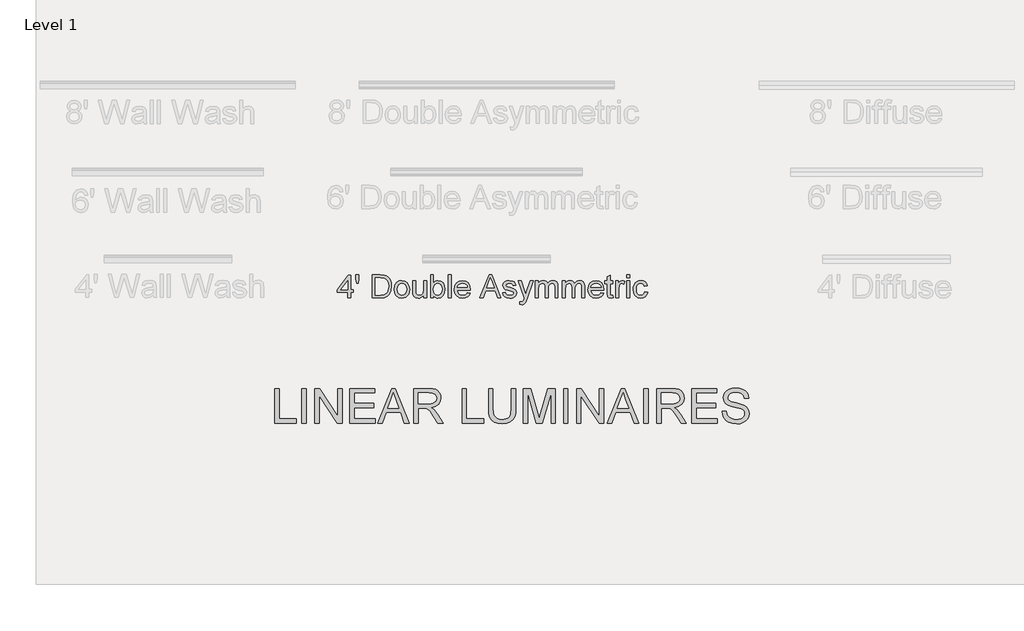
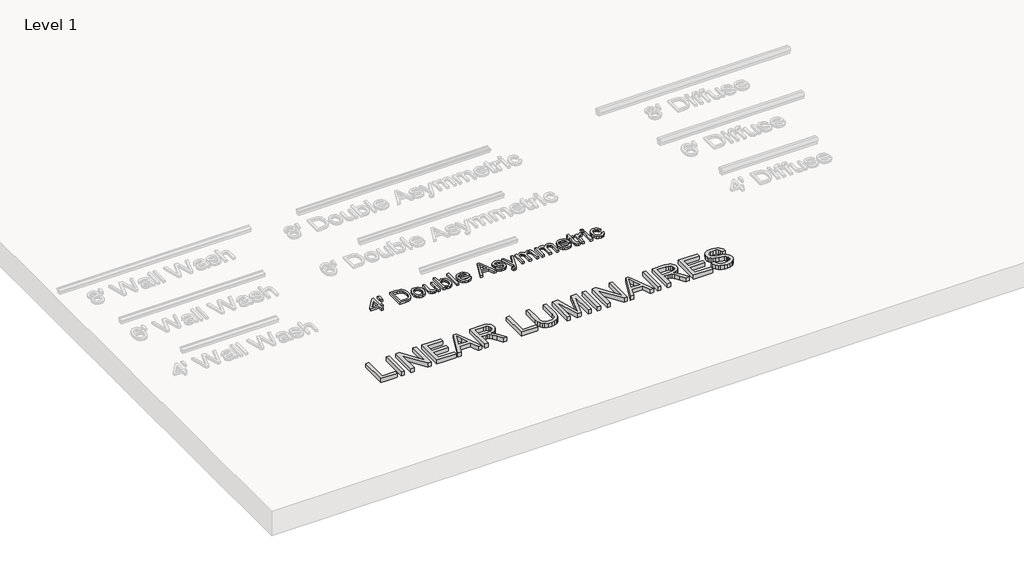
# One storey, part 2 of 9: 2 proxies.
"""IFC4 building model written with IfcOpenShell, lengths in millimetres."""

from ifc_helpers import new_model, si_unit, origin, origin_with_axes, place, context, project, spatial, polyline, outline, extrude, element, save

model = new_model("IFC4")

# Units and contexts
model_context = context("Model", 3, world=origin())
ifc_project = project(units=[si_unit("LENGTHUNIT", "METRE", prefix="MILLI")], contexts=[model_context])

# Site, building, storey
site = spatial("IfcSite", under=ifc_project)
building = spatial("IfcBuilding", under=site)
storey = spatial("IfcBuildingStorey", under=building, Name="Level 1", Elevation=0.0)

# Proxies
placement = place(None, origin())
element("IfcBuildingElementProxy", 1, Name="24\" Arial", ObjectType="24\" Arial", at=placement, inside=storey, context=model_context, shape_type="SweptSolid", body=[
    extrude(outline(polyline([(-9601.643189, 4815.649732), (-9601.643189, 5120.2168261), (-9563.5723022, 5120.2168261), (-9563.5723022, 4853.7206188), (-9411.2887552, 4853.7206188), (-9411.2887552, 4815.649732), (-9601.643189, 4815.649732)])), origin_with_axes(), (0.0, 0.0, 1.0), 50.8),
    extrude(outline(polyline([(-9363.7001467, 4815.649732), (-9363.7001467, 5120.2168261), (-9325.62926, 5120.2168261), (-9325.62926, 4815.649732), (-9363.7001467, 4815.649732)])), origin_with_axes(), (0.0, 0.0, 1.0), 50.8),
    extrude(outline(polyline([(-9249.4874865, 4815.649732), (-9249.4874865, 5120.2168261), (-9208.7397405, 5120.2168261), (-9049.615331, 4878.9277098), (-9049.615331, 5120.2168261), (-9011.5444442, 5120.2168261), (-9011.5444442, 4815.649732), (-9052.2921902, 4815.649732), (-9211.4165997, 5057.0132055), (-9211.4165997, 4815.649732), (-9249.4874865, 4815.649732)])), origin_with_axes(), (0.0, 0.0, 1.0), 50.8),
    extrude(outline(polyline([(-8944.9203924, 4815.649732), (-8944.9203924, 5120.2168261), (-8726.0127935, 5120.2168261), (-8726.0127935, 5082.1459393), (-8906.8495056, 5082.1459393), (-8906.8495056, 4991.7275833), (-8735.5305152, 4991.7275833), (-8735.5305152, 4953.6566965), (-8906.8495056, 4953.6566965), (-8906.8495056, 4853.7206188), (-8721.2539327, 4853.7206188), (-8721.2539327, 4815.649732), (-8944.9203924, 4815.649732)])), origin_with_axes(), (0.0, 0.0, 1.0), 50.8),
    extrude(outline(polyline([(-8699.6159873, 4815.649732), (-8578.0419642, 5120.2168261), (-8545.6222246, 5120.2168261), (-8424.0482015, 4815.649732), (-8464.2754471, 4815.649732), (-8499.1489742, 4910.8269489), (-8624.5895718, 4910.8269489), (-8659.3887417, 4815.649732), (-8699.6159873, 4815.649732)]), holes=[polyline([(-8610.6104181, 4948.8978357), (-8513.0537707, 4948.8978357), (-8540.4915778, 5023.7755368), (-8561.8320944, 5082.1459393), (-8580.7931806, 5030.3189704), (-8610.6104181, 4948.8978357)])]), origin_with_axes(), (0.0, 0.0, 1.0), 50.8),
    extrude(outline(polyline([(-8383.3748127, 4815.649732), (-8383.3748127, 5120.2168261), (-8252.1343535, 5120.2168261), (-8216.8611564, 5118.1627084), (-8191.1986275, 5112.0003554), (-8172.4420236, 5100.6237037), (-8157.8866016, 5082.9266899), (-8148.5454783, 5060.9820211), (-8145.4317705, 5036.8624041), (-8150.5903013, 5006.8592736), (-8166.0658937, 4981.98679), (-8177.7887711, 4971.850974), (-8192.3232802, 4963.7506865), (-8229.8271933, 4953.6566965), (-8208.1892479, 4937.3724695), (-8177.3310096, 4898.1862248), (-8126.5450415, 4815.649732), (-8170.7875759, 4815.649732), (-8210.4199639, 4878.7789954), (-8239.0474862, 4920.5677422), (-8259.1611089, 4940.309579), (-8277.2670873, 4947.559406), (-8299.3511759, 4948.8978357), (-8345.303926, 4948.8978357), (-8345.303926, 4815.649732), (-8383.3748127, 4815.649732)]), holes=[polyline([(-8345.303926, 4986.9687224), (-8260.090574, 4986.9687224), (-8235.6177603, 4988.3164467), (-8216.6287901, 4992.3596195), (-8202.3336183, 4999.3677856), (-8191.9421995, 5009.61049), (-8185.6125428, 5022.0002586), (-8183.5026572, 5035.4496173), (-8187.5272407, 5054.0203281), (-8199.6009912, 5068.9847148), (-8220.3745341, 5078.8556332), (-8250.4984951, 5082.1459393), (-8345.303926, 5082.1459393), (-8345.303926, 4986.9687224)])]), origin_with_axes(), (0.0, 0.0, 1.0), 50.8),
    extrude(outline(polyline([(-7959.8361975, 4815.649732), (-7959.8361975, 5120.2168261), (-7921.7653108, 5120.2168261), (-7921.7653108, 4853.7206188), (-7769.4817637, 4853.7206188), (-7769.4817637, 4815.649732), (-7959.8361975, 4815.649732)])), origin_with_axes(), (0.0, 0.0, 1.0), 50.8),
    extrude(outline(polyline([(-7526.7798607, 5120.2168261), (-7488.7089739, 5120.2168261), (-7488.7089739, 4944.5107608), (-7491.2928866, 4903.3633449), (-7499.0446248, 4871.6778827), (-7513.5256896, 4847.232953), (-7536.2975823, 4827.8071343), (-7567.4160708, 4815.1199369), (-7606.936923, 4810.8908712), (-7645.5933727, 4814.5715526), (-7676.4980843, 4825.6135969), (-7699.6603523, 4843.6359234), (-7715.0894714, 4868.2574515), (-7723.76138, 4901.2813433), (-7726.6520161, 4944.5107608), (-7726.6520161, 5120.2168261), (-7688.5811294, 5120.2168261), (-7688.5811294, 4945.8491904), (-7686.7036101, 4911.6355835), (-7681.0710521, 4887.8133953), (-7670.8655263, 4871.3153914), (-7655.2691035, 4859.0743372), (-7634.9324091, 4851.4899027), (-7610.5060686, 4848.9617579), (-7571.7845564, 4853.9622797), (-7557.2895496, 4860.2129318), (-7546.0383756, 4868.9638449), (-7537.6127753, 4881.2699616), (-7531.5944894, 4898.1862248), (-7526.7798607, 4945.8491904), (-7526.7798607, 5120.2168261)])), origin_with_axes(), (0.0, 0.0, 1.0), 50.8),
    extrude(outline(polyline([(-7422.0849221, 4815.649732), (-7422.0849221, 5120.2168261), (-7356.5762282, 5120.2168261), (-7294.2648941, 4905.5475876), (-7281.6985271, 4860.7101956), (-7268.0911594, 4909.2654477), (-7206.820826, 5120.2168261), (-7141.3121322, 5120.2168261), (-7141.3121322, 4815.649732), (-7179.383019, 4815.649732), (-7179.383019, 5082.1459393), (-7255.8965785, 4815.649732), (-7307.5004758, 4815.649732), (-7384.0140353, 5082.1459393), (-7384.0140353, 4815.649732), (-7422.0849221, 4815.649732)])), origin_with_axes(), (0.0, 0.0, 1.0), 50.8),
    extrude(outline(polyline([(-7069.9292195, 4815.649732), (-7069.9292195, 5120.2168261), (-7031.8583328, 5120.2168261), (-7031.8583328, 4815.649732), (-7069.9292195, 4815.649732)])), origin_with_axes(), (0.0, 0.0, 1.0), 50.8),
    extrude(outline(polyline([(-6955.7165593, 4815.649732), (-6955.7165593, 5120.2168261), (-6914.9688133, 5120.2168261), (-6755.8444038, 4878.9277098), (-6755.8444038, 5120.2168261), (-6717.773517, 5120.2168261), (-6717.773517, 4815.649732), (-6758.521263, 4815.649732), (-6917.6456725, 5057.0132055), (-6917.6456725, 4815.649732), (-6955.7165593, 4815.649732)])), origin_with_axes(), (0.0, 0.0, 1.0), 50.8),
    extrude(outline(polyline([(-6686.6178499, 4815.649732), (-6565.0438268, 5120.2168261), (-6532.6240873, 5120.2168261), (-6411.0500641, 4815.649732), (-6451.2773097, 4815.649732), (-6486.1508368, 4910.8269489), (-6611.5914344, 4910.8269489), (-6646.3906044, 4815.649732), (-6686.6178499, 4815.649732)]), holes=[polyline([(-6597.6122807, 4948.8978357), (-6500.0556334, 4948.8978357), (-6527.4934404, 5023.7755368), (-6548.833957, 5082.1459393), (-6567.7950432, 5030.3189704), (-6597.6122807, 4948.8978357)])]), origin_with_axes(), (0.0, 0.0, 1.0), 50.8),
    extrude(outline(polyline([(-6365.6178145, 4815.649732), (-6365.6178145, 5120.2168261), (-6327.5469278, 5120.2168261), (-6327.5469278, 4815.649732), (-6365.6178145, 4815.649732)])), origin_with_axes(), (0.0, 0.0, 1.0), 50.8),
    extrude(outline(polyline([(-6251.4051542, 4815.649732), (-6251.4051542, 5120.2168261), (-6120.164695, 5120.2168261), (-6084.8914979, 5118.1627084), (-6059.228969, 5112.0003554), (-6040.4723652, 5100.6237037), (-6025.9169431, 5082.9266899), (-6016.5758198, 5060.9820211), (-6013.462112, 5036.8624041), (-6018.6206428, 5006.8592736), (-6034.0962352, 4981.98679), (-6045.8191126, 4971.850974), (-6060.3536217, 4963.7506865), (-6097.8575348, 4953.6566965), (-6076.2195894, 4937.3724695), (-6045.3613511, 4898.1862248), (-5994.575383, 4815.649732), (-6038.8179174, 4815.649732), (-6078.4503054, 4878.7789954), (-6107.0778277, 4920.5677422), (-6127.1914505, 4940.309579), (-6145.2974288, 4947.559406), (-6167.3815174, 4948.8978357), (-6213.3342675, 4948.8978357), (-6213.3342675, 4815.649732), (-6251.4051542, 4815.649732)]), holes=[polyline([(-6213.3342675, 4986.9687224), (-6128.1209155, 4986.9687224), (-6103.6481018, 4988.3164467), (-6084.6591317, 4992.3596195), (-6070.3639598, 4999.3677856), (-6059.972541, 5009.61049), (-6053.6428843, 5022.0002586), (-6051.5329988, 5035.4496173), (-6055.5575822, 5054.0203281), (-6067.6313327, 5068.9847148), (-6088.4048757, 5078.8556332), (-6118.5288366, 5082.1459393), (-6213.3342675, 5082.1459393), (-6213.3342675, 4986.9687224)])]), origin_with_axes(), (0.0, 0.0, 1.0), 50.8),
    extrude(outline(polyline([(-5946.8380602, 4815.649732), (-5946.8380602, 5120.2168261), (-5727.9304613, 5120.2168261), (-5727.9304613, 5082.1459393), (-5908.7671734, 5082.1459393), (-5908.7671734, 4991.7275833), (-5737.448183, 4991.7275833), (-5737.448183, 4953.6566965), (-5908.7671734, 4953.6566965), (-5908.7671734, 4853.7206188), (-5723.1716005, 4853.7206188), (-5723.1716005, 4815.649732), (-5946.8380602, 4815.649732)])), origin_with_axes(), (0.0, 0.0, 1.0), 50.8),
    extrude(outline(polyline([(-5680.3418529, 4920.3446706), (-5642.2709661, 4920.3446706), (-5637.9024806, 4899.2179309), (-5630.002028, 4882.2366052), (-5617.677322, 4868.7593626), (-5600.0360761, 4858.1448722), (-5578.4724879, 4851.2575365), (-5554.3807549, 4848.9617579), (-5533.1703634, 4850.6998575), (-5514.5996525, 4855.9141562), (-5499.551614, 4864.1678055), (-5488.9092397, 4875.0239568), (-5482.5795829, 4887.4880825), (-5480.4696974, 4900.5656552), (-5482.0497879, 4913.3086205), (-5486.7900594, 4924.3227808), (-5496.4193169, 4933.7196721), (-5512.6663653, 4941.61083), (-5568.0996584, 4956.1476627), (-5604.4882135, 4965.7676256), (-5627.771312, 4974.9228559), (-5646.7231035, 4987.7308837), (-5660.1538729, 5003.2529494), (-5668.1565666, 5021.1544454), (-5670.8241312, 5041.1007645), (-5667.5245304, 5063.3986301), (-5657.625728, 5084.1907623), (-5641.3879743, 5101.8134189), (-5619.0715195, 5114.6028574), (-5592.2843379, 5122.3824795), (-5562.6344042, 5124.9756869), (-5530.5120934, 5122.2616491), (-5502.4050716, 5114.1195356), (-5479.3171608, 5100.7166502), (-5462.2521832, 5082.2202965), (-5451.4517998, 5059.7830112), (-5447.1576715, 5034.5573309), (-5485.2285582, 5034.5573309), (-5492.2181351, 5057.2734557), (-5506.7921464, 5073.6692184), (-5529.5640391, 5083.5959047), (-5561.1472601, 5086.9048002), (-5593.4740531, 5083.6330833), (-5615.6510883, 5073.8179328), (-5628.4777054, 5059.3740466), (-5632.7532444, 5042.2161225), (-5629.7231885, 5027.5863433), (-5620.6330207, 5015.8193163), (-5599.1437897, 5005.2977724), (-5558.4704009, 4994.5531569), (-5516.4957611, 4984.3476311), (-5491.1027771, 4975.4433563), (-5469.3997691, 4961.6315063), (-5454.2587841, 4944.585118), (-5445.363804, 4924.4900845), (-5442.3988106, 4901.5322988), (-5445.8099472, 4878.0633073), (-5456.0433569, 4855.9885134), (-5472.6807806, 4836.9902486), (-5495.3039589, 4822.7508447), (-5522.5093997, 4813.8558645), (-5552.8936109, 4810.8908712), (-5590.1930417, 4814.0882308), (-5620.8932709, 4823.6803097), (-5645.3474953, 4839.7042864), (-5663.9089115, 4862.1973396), (-5675.8246529, 4889.5979681), (-5680.3418529, 4920.3446706)])), origin_with_axes(), (0.0, 0.0, 1.0), 50.8),
])
element("IfcBuildingElementProxy", 2, Name="8\"", ObjectType="8\"", at=placement, inside=storey, context=model_context, shape_type="SweptSolid", body=[
    extrude(outline(polyline([(-8962.6941985, 5914.8723044), (-8962.6941985, 5962.4609128), (-9054.6988415, 5962.4609128), (-9054.6988415, 5987.841504), (-8956.3490507, 6114.7444599), (-8937.3136073, 6114.7444599), (-8937.3136073, 5987.841504), (-8911.9330162, 5987.841504), (-8911.9330162, 5962.4609128), (-8937.3136073, 5962.4609128), (-8937.3136073, 5914.8723044), (-8962.6941985, 5914.8723044)]), holes=[polyline([(-8962.6941985, 5987.841504), (-8962.6941985, 6066.263565), (-9023.4688172, 5987.841504), (-8962.6941985, 5987.841504)])]), origin_with_axes(), (0.0, 0.0, 1.0), 25.4),
    extrude(outline(polyline([(-8884.0242802, 6044.9478341), (-8889.7249989, 6083.4648641), (-8889.7249989, 6117.9170338), (-8864.3444077, 6117.9170338), (-8864.3444077, 6083.4648641), (-8870.2929838, 6044.9478341), (-8884.0242802, 6044.9478341)])), origin_with_axes(), (0.0, 0.0, 1.0), 25.4),
    extrude(outline(polyline([(-8746.9591735, 5914.8723044), (-8746.9591735, 6117.9170338), (-8676.9146905, 6117.9170338), (-8640.677948, 6114.9923172), (-8624.492864, 6109.3535628), (-8610.8359248, 6100.4678773), (-8596.7948067, 6085.0015796), (-8586.7937632, 6065.7678503), (-8580.8080086, 6043.1384756), (-8578.812757, 6017.4852413), (-8584.2160469, 5976.5144238), (-8598.0960577, 5946.9450436), (-8616.6357864, 5928.5292436), (-8640.9010196, 5918.3423071), (-8673.5438307, 5914.8723044), (-8746.9591735, 5914.8723044)]), holes=[polyline([(-8721.5785824, 5940.2528956), (-8676.6668331, 5940.2528956), (-8643.9992363, 5943.9211841), (-8625.1620788, 5954.2816208), (-8616.3445541, 5965.2678972), (-8609.7205668, 5979.4887118), (-8605.5751528, 5997.006029), (-8604.1933482, 6017.8818131), (-8606.9011896, 6045.5426917), (-8615.0247138, 6065.9661362), (-8627.0272052, 6079.9948614), (-8641.3719485, 6088.4715823), (-8677.3608337, 6092.5364426), (-8721.5785824, 6092.5364426), (-8721.5785824, 5940.2528956)])]), origin_with_axes(), (0.0, 0.0, 1.0), 25.4),
    extrude(outline(polyline([(-8553.4321658, 5989.427791), (-8547.9421259, 6025.3794975), (-8541.0795759, 6039.3493566), (-8531.4720059, 6050.6485529), (-8511.1229186, 6063.0290268), (-8486.7585425, 6067.1558514), (-8460.0952897, 6062.1305439), (-8438.7981481, 6047.0546215), (-8424.8375837, 6023.1177993), (-8420.1840622, 5991.5097926), (-8422.2412781, 5965.8689512), (-8428.4129257, 5946.350186), (-8438.5193086, 5931.7327996), (-8452.3807301, 5920.7960947), (-8468.8446536, 5913.9738215), (-8486.7585425, 5911.6997305), (-8513.74401, 5916.7064487), (-8535.0163658, 5931.7266032), (-8548.8282158, 5956.1653365), (-8553.4321658, 5989.427791)]), holes=[polyline([(-8528.0515747, 5989.4773624), (-8525.1144652, 5966.5071838), (-8516.303137, 5950.1424032), (-8503.0427695, 5940.3458421), (-8486.7585425, 5937.0803217), (-8470.5486728, 5940.3644314), (-8457.3130911, 5950.2167604), (-8448.5017628, 5966.7984162), (-8445.5646534, 5990.2705059), (-8448.5203521, 6012.5714697), (-8457.3874483, 6028.7131787), (-8470.6416193, 6038.5097398), (-8486.7585425, 6041.7752602), (-8503.0427695, 6038.5221327), (-8516.303137, 6028.7627501), (-8525.1144652, 6012.4351481), (-8528.0515747, 5989.4773624)])]), origin_with_axes(), (0.0, 0.0, 1.0), 25.4),
    extrude(outline(polyline([(-8296.4536802, 5914.8723044), (-8296.4536802, 5940.5007529), (-8305.6367945, 5927.9003056), (-8316.3318385, 5918.8999861), (-8328.5388123, 5913.4997944), (-8342.2577159, 5911.6997305), (-8366.1263773, 5916.7560201), (-8382.5841044, 5929.4463157), (-8390.1437531, 5948.1347588), (-8391.6308971, 5971.7307772), (-8391.6308971, 6063.9832775), (-8366.2503059, 6063.9832775), (-8366.2503059, 5983.6775008), (-8364.7135905, 5957.8011949), (-8361.0143197, 5949.1695632), (-8354.6753684, 5942.6075402), (-8335.7638537, 5937.0803217), (-8314.5720515, 5942.7314689), (-8306.1263127, 5949.4050277), (-8300.568112, 5958.1234095), (-8296.4536802, 5986.4039315), (-8296.4536802, 6063.9832775), (-8271.0730891, 6063.9832775), (-8271.0730891, 5914.8723044), (-8296.4536802, 5914.8723044)])), origin_with_axes(), (0.0, 0.0, 1.0), 25.4),
    extrude(outline(polyline([(-8210.794185, 5914.8723044), (-8236.1747762, 5914.8723044), (-8236.1747762, 6117.9170338), (-8210.794185, 6117.9170338), (-8210.794185, 6042.6179752), (-8193.022814, 6061.0213824), (-8182.5198595, 6065.6222342), (-8170.9387254, 6067.1558514), (-8145.5085628, 6061.6286328), (-8125.7791189, 6046.0879779), (-8113.6588952, 6021.9218877), (-8109.2718203, 5991.658507), (-8113.813806, 5957.7764092), (-8127.439763, 5932.5693182), (-8147.4356536, 5916.9171274), (-8171.0874398, 5911.6997305), (-8183.0496545, 5913.3820622), (-8193.6548503, 5918.4290572), (-8202.9030271, 5926.8407155), (-8210.794185, 5938.6170371), (-8210.794185, 5914.8723044)]), holes=[polyline([(-8210.794185, 5990.4687918), (-8209.0591837, 5969.3017753), (-8203.8541796, 5954.9756213), (-8190.5566336, 5941.5541466), (-8173.2685844, 5937.0803217), (-8158.6202159, 5940.3768242), (-8146.1034204, 5950.2663319), (-8137.5151637, 5966.6868804), (-8134.6524115, 5989.5765054), (-8137.3974315, 6012.8007377), (-8145.6324915, 6029.0353932), (-8157.7589116, 6038.5902935), (-8172.1780121, 6041.7752602), (-8186.8263807, 6038.4787577), (-8199.3431761, 6028.58925), (-8207.9314328, 6012.4661303), (-8210.794185, 5990.4687918)])]), origin_with_axes(), (0.0, 0.0, 1.0), 25.4),
    extrude(outline(polyline([(-8080.7186553, 5914.8723044), (-8080.7186553, 6117.9170338), (-8055.3380641, 6117.9170338), (-8055.3380641, 5914.8723044), (-8080.7186553, 5914.8723044)])), origin_with_axes(), (0.0, 0.0, 1.0), 25.4),
    extrude(outline(polyline([(-7912.8696675, 5959.2883389), (-7887.984791, 5956.115765), (-7896.9510302, 5937.3653576), (-7911.2585949, 5923.3490253), (-7930.5852706, 5914.6120542), (-7954.6088429, 5911.6997305), (-7984.3889018, 5916.725038), (-8007.3033124, 5931.8009604), (-8021.9145024, 5955.9484613), (-8026.784899, 5988.1885043), (-8021.8649309, 6021.5129231), (-8015.7149708, 6035.0242461), (-8007.1050266, 6046.4349782), (-7984.5004376, 6061.9756331), (-7956.0464154, 6067.1558514), (-7928.4784833, 6061.988026), (-7906.4501626, 6046.4845496), (-7892.0062763, 6021.612066), (-7887.1916476, 5988.3372187), (-7887.340362, 5981.4963562), (-8001.4043078, 5981.4963562), (-7997.0110366, 5962.4980914), (-7986.8055108, 5948.5313306), (-7972.0765886, 5939.9430739), (-7954.1131282, 5937.0803217), (-7929.2282517, 5942.3844686), (-7919.9831731, 5949.2625097), (-7912.8696675, 5959.2883389)]), holes=[polyline([(-8001.4043078, 6006.8769474), (-7912.5722387, 6006.8769474), (-7916.0050628, 6020.2860292), (-7922.7343895, 6029.8781081), (-7937.5314724, 6038.8009722), (-7956.1455584, 6041.7752602), (-7973.2539109, 6039.4020263), (-7987.4003684, 6032.2823243), (-7997.2341082, 6021.1845121), (-8001.4043078, 6006.8769474)])]), origin_with_axes(), (0.0, 0.0, 1.0), 25.4),
    extrude(outline(polyline([(-7802.9697249, 5914.8723044), (-7721.9203761, 6117.9170338), (-7700.3072165, 6117.9170338), (-7619.2578677, 5914.8723044), (-7646.0760314, 5914.8723044), (-7669.3250495, 5978.3237823), (-7752.9521146, 5978.3237823), (-7776.1515612, 5914.8723044), (-7802.9697249, 5914.8723044)]), holes=[polyline([(-7743.6326788, 6003.7043735), (-7678.5949139, 6003.7043735), (-7696.8867852, 6053.6228409), (-7711.1137963, 6092.5364426), (-7723.7545204, 6057.98513), (-7743.6326788, 6003.7043735)])]), origin_with_axes(), (0.0, 0.0, 1.0), 25.4),
    extrude(outline(polyline([(-7604.8325708, 5959.2883389), (-7579.4519796, 5962.4609128), (-7575.4490836, 5951.6047615), (-7567.7035419, 5943.6237553), (-7556.1657829, 5938.7161801), (-7540.7862352, 5937.0803217), (-7525.5925806, 5938.5798585), (-7514.9099294, 5943.0784692), (-7508.5895673, 5949.5971171), (-7506.48278, 5957.1567658), (-7508.6019602, 5963.6258423), (-7514.9595009, 5968.5582033), (-7541.083664, 5975.7956375), (-7579.3032652, 5988.21329), (-7588.9758977, 5994.4530984), (-7595.9840639, 6002.7129441), (-7601.6599969, 6023.1859601), (-7597.0994219, 6042.0974748), (-7584.6569837, 6056.5475575), (-7568.5214711, 6064.0576347), (-7546.6852398, 6067.1558514), (-7515.8022158, 6062.173919), (-7504.252064, 6056.312093), (-7496.1719148, 6048.6904799), (-7487.4473366, 6025.9123908), (-7512.8279278, 6022.7398169), (-7516.0314838, 6030.7270195), (-7522.3704352, 6036.7437563), (-7544.7023811, 6041.7752602), (-7559.2763925, 6040.5731522), (-7568.9924, 6036.9668279), (-7574.4576543, 6031.7618239), (-7576.2794057, 6025.7636764), (-7573.2555462, 6018.3775278), (-7563.787396, 6012.775952), (-7541.926379, 6007.3726621), (-7504.6734214, 5995.4259385), (-7487.3729794, 5981.8929279), (-7482.6698865, 5971.9414559), (-7481.1021888, 5959.8336251), (-7482.9425295, 5947.3168296), (-7488.4635517, 5935.5436062), (-7497.4545765, 5925.4372233), (-7509.7049253, 5917.9209496), (-7524.5020083, 5913.2550353), (-7541.1332355, 5911.6997305), (-7566.7245054, 5914.6988042), (-7585.4005557, 5923.6960255), (-7597.8677796, 5938.5922514), (-7604.8325708, 5959.2883389)])), origin_with_axes(), (0.0, 0.0, 1.0), 25.4),
    extrude(outline(polyline([(-7452.5490237, 5857.7659742), (-7455.7215976, 5882.2047075), (-7442.8330162, 5879.9739915), (-7430.7871497, 5882.7747794), (-7423.4010011, 5890.5822855), (-7416.4609957, 5909.2707286), (-7414.478137, 5915.4175905), (-7468.4118932, 6063.9832775), (-7441.643301, 6063.9832775), (-7413.0405644, 5981.1989274), (-7403.0766995, 5948.0851874), (-7393.1128346, 5977.332353), (-7363.7169546, 6063.9832775), (-7337.1466483, 6063.9832775), (-7389.0479743, 5911.3031587), (-7402.5314134, 5878.1894187), (-7417.2541391, 5860.2941191), (-7426.3381105, 5856.01858), (-7437.0331545, 5854.5934003), (-7452.5490237, 5857.7659742)])), origin_with_axes(), (0.0, 0.0, 1.0), 25.4),
    extrude(outline(polyline([(-7316.1283462, 5914.8723044), (-7316.1283462, 6063.9832775), (-7290.747755, 6063.9832775), (-7290.747755, 6039.4454013), (-7283.1137491, 6050.7167136), (-7273.2985986, 6059.5466312), (-7261.6369109, 6065.2535464), (-7248.4632936, 6067.1558514), (-7234.3478183, 6065.2163678), (-7223.0331309, 6059.3979168), (-7214.5811958, 6050.0846774), (-7209.0539772, 6037.6608285), (-7199.8027021, 6050.564901), (-7189.2501761, 6059.7820957), (-7177.396399, 6065.3124125), (-7164.2413709, 6067.1558514), (-7145.1625525, 6064.0886169), (-7131.0532736, 6054.8869133), (-7122.3348919, 6039.3028833), (-7119.4287646, 6017.0886696), (-7119.4287646, 5914.8723044), (-7144.8093558, 5914.8723044), (-7144.8093558, 6006.1829468), (-7147.1640005, 6027.374749), (-7155.6902928, 6037.8095429), (-7170.1899469, 6041.7752602), (-7183.9398326, 6039.2347226), (-7195.1491807, 6031.6131095), (-7202.60349, 6018.3899206), (-7205.0882598, 5999.0446556), (-7205.0882598, 5914.8723044), (-7230.468851, 5914.8723044), (-7230.468851, 6009.0085205), (-7231.9374057, 6023.3594602), (-7236.3430698, 6033.5959682), (-7244.094808, 6039.7304372), (-7255.6015848, 6041.7752602), (-7274.3891709, 6036.3223989), (-7281.8248909, 6029.6054651), (-7286.8811806, 6020.3603864), (-7290.747755, 5990.07222), (-7290.747755, 5914.8723044), (-7316.1283462, 5914.8723044)])), origin_with_axes(), (0.0, 0.0, 1.0), 25.4),
    extrude(outline(polyline([(-7081.3578778, 5914.8723044), (-7081.3578778, 6063.9832775), (-7055.9772867, 6063.9832775), (-7055.9772867, 6039.4454013), (-7048.3432807, 6050.7167136), (-7038.5281302, 6059.5466312), (-7026.8664426, 6065.2535464), (-7013.6928252, 6067.1558514), (-6999.5773499, 6065.2163678), (-6988.2626626, 6059.3979168), (-6979.8107274, 6050.0846774), (-6974.2835088, 6037.6608285), (-6965.0322338, 6050.564901), (-6954.4797077, 6059.7820957), (-6942.6259306, 6065.3124125), (-6929.4709025, 6067.1558514), (-6910.3920841, 6064.0886169), (-6896.2828053, 6054.8869133), (-6887.5644235, 6039.3028833), (-6884.6582963, 6017.0886696), (-6884.6582963, 5914.8723044), (-6910.0388874, 5914.8723044), (-6910.0388874, 6006.1829468), (-6912.3935321, 6027.374749), (-6920.9198245, 6037.8095429), (-6935.4194786, 6041.7752602), (-6949.1693643, 6039.2347226), (-6960.3787123, 6031.6131095), (-6967.8330217, 6018.3899206), (-6970.3177915, 5999.0446556), (-6970.3177915, 5914.8723044), (-6995.6983826, 5914.8723044), (-6995.6983826, 6009.0085205), (-6997.1669374, 6023.3594602), (-7001.5726015, 6033.5959682), (-7009.3243397, 6039.7304372), (-7020.8311165, 6041.7752602), (-7039.6187025, 6036.3223989), (-7047.0544226, 6029.6054651), (-7052.1107122, 6020.3603864), (-7055.9772867, 5990.07222), (-7055.9772867, 5914.8723044), (-7081.3578778, 5914.8723044)])), origin_with_axes(), (0.0, 0.0, 1.0), 25.4),
    extrude(outline(polyline([(-6742.1898997, 5959.2883389), (-6717.3050232, 5956.115765), (-6726.2712623, 5937.3653576), (-6740.578827, 5923.3490253), (-6759.9055028, 5914.6120542), (-6783.929075, 5911.6997305), (-6813.7091339, 5916.725038), (-6836.6235446, 5931.8009604), (-6851.2347345, 5955.9484613), (-6856.1051312, 5988.1885043), (-6851.1851631, 6021.5129231), (-6845.0352029, 6035.0242461), (-6836.4252587, 6046.4349782), (-6813.8206697, 6061.9756331), (-6785.3666476, 6067.1558514), (-6757.7987154, 6061.988026), (-6735.7703947, 6046.4845496), (-6721.3265085, 6021.612066), (-6716.5118797, 5988.3372187), (-6716.6605941, 5981.4963562), (-6830.72454, 5981.4963562), (-6826.3312687, 5962.4980914), (-6816.1257429, 5948.5313306), (-6801.3968208, 5939.9430739), (-6783.4333604, 5937.0803217), (-6758.5484839, 5942.3844686), (-6749.3034053, 5949.2625097), (-6742.1898997, 5959.2883389)]), holes=[polyline([(-6830.72454, 6006.8769474), (-6741.8924709, 6006.8769474), (-6745.325295, 6020.2860292), (-6752.0546217, 6029.8781081), (-6766.8517046, 6038.8009722), (-6785.4657905, 6041.7752602), (-6802.5741431, 6039.4020263), (-6816.7206006, 6032.2823243), (-6826.5543403, 6021.1845121), (-6830.72454, 6006.8769474)])]), origin_with_axes(), (0.0, 0.0, 1.0), 25.4),
    extrude(outline(polyline([(-6637.1975323, 5936.0393208), (-6634.0249584, 5914.1287324), (-6653.0108303, 5911.6997305), (-6674.2769897, 5915.9133052), (-6684.8852837, 5926.9677424), (-6687.9587147, 5955.7687648), (-6687.9587147, 6038.6026863), (-6706.9941581, 6038.6026863), (-6706.9941581, 6063.9832775), (-6687.9587147, 6063.9832775), (-6687.9587147, 6100.22002), (-6662.5781235, 6115.1410316), (-6662.5781235, 6063.9832775), (-6637.1975323, 6063.9832775), (-6637.1975323, 6038.6026863), (-6662.5781235, 6038.6026863), (-6662.5781235, 5956.5123368), (-6661.2396939, 5943.4254695), (-6656.9021905, 5938.7905373), (-6648.2519695, 5937.0803217), (-6637.1975323, 5936.0393208)])), origin_with_axes(), (0.0, 0.0, 1.0), 25.4),
    extrude(outline(polyline([(-6611.8169412, 5914.8723044), (-6611.8169412, 6063.9832775), (-6589.6089239, 6063.9832775), (-6589.6089239, 6041.9239746), (-6573.8451973, 6062.2482762), (-6557.9823279, 6067.1558514), (-6545.3416037, 6065.1977785), (-6532.5025937, 6059.3235596), (-6540.9793146, 6036.5702562), (-6558.8250428, 6041.7752602), (-6573.1759825, 6036.7685421), (-6582.3219182, 6022.8885313), (-6586.43635, 5993.2447939), (-6586.43635, 5914.8723044), (-6611.8169412, 5914.8723044)])), origin_with_axes(), (0.0, 0.0, 1.0), 25.4),
    extrude(outline(polyline([(-6516.6397243, 6092.5364426), (-6516.6397243, 6117.9170338), (-6491.2591331, 6117.9170338), (-6491.2591331, 6092.5364426), (-6516.6397243, 6092.5364426)])), origin_with_axes(), (0.0, 0.0, 1.0), 25.4),
    extrude(outline(polyline([(-6516.6397243, 5914.8723044), (-6516.6397243, 6063.9832775), (-6491.2591331, 6063.9832775), (-6491.2591331, 5914.8723044), (-6516.6397243, 5914.8723044)])), origin_with_axes(), (0.0, 0.0, 1.0), 25.4),
    extrude(outline(polyline([(-6358.0110294, 5968.8060606), (-6332.6304383, 5965.6334867), (-6339.7067652, 5943.0598799), (-6353.0043113, 5926.0010988), (-6371.2713969, 5915.2750726), (-6393.2563426, 5911.6997305), (-6420.2542029, 5916.6878594), (-6441.3654514, 5931.652246), (-6454.9914084, 5955.9360685), (-6459.5333941, 5988.8825048), (-6457.5939105, 6011.4685045), (-6451.7754595, 6031.0430376), (-6441.9850948, 6046.8501392), (-6428.1298697, 6058.1338444), (-6411.5544104, 6064.9003497), (-6393.6033428, 6067.1558514), (-6372.1574869, 6064.0576347), (-6355.0119557, 6054.7629846), (-6342.7120354, 6039.7676158), (-6335.8030122, 6019.567243), (-6361.1836033, 6016.3946691), (-6365.7875533, 6027.4676955), (-6372.9568268, 6035.4053267), (-6382.2948519, 6040.1827769), (-6393.405057, 6041.7752602), (-6409.8070162, 6038.6398649), (-6422.8257227, 6029.2336791), (-6431.3210329, 6013.048595), (-6434.152803, 5989.5765054), (-6431.3829972, 5965.7883976), (-6423.07358, 5949.5475456), (-6410.290338, 5940.1971277), (-6394.0990575, 5937.0803217), (-6380.9564223, 5939.0260017), (-6370.1808246, 5944.863042), (-6362.3423364, 5954.7401568), (-6358.0110294, 5968.8060606)])), origin_with_axes(), (0.0, 0.0, 1.0), 25.4),
])

save(model, "model.ifc")
